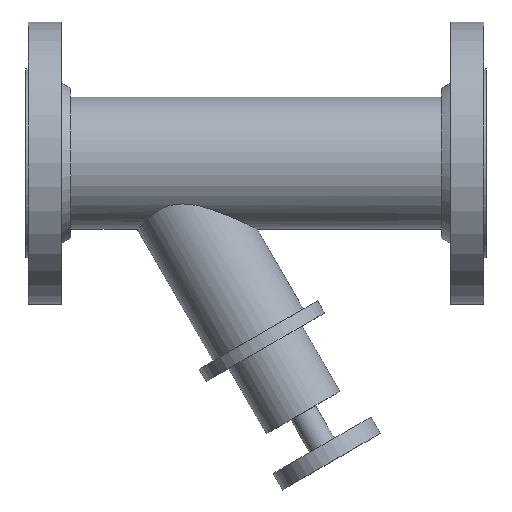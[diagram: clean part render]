
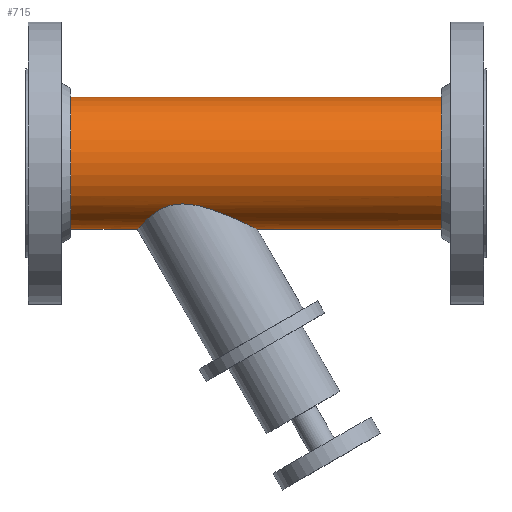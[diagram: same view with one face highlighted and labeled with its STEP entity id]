
A CAD part, top view. The second image highlights one B-rep face of the part: STEP entity #715.
In plain terms, the highlighted cylindrical face has radius 44.45 mm (diameter 88.9 mm), a full revolution.
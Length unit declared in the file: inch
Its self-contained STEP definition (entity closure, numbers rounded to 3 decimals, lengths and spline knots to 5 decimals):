
#45=B_SPLINE_CURVE_WITH_KNOTS('',3,(#1248,#1249,#1250,#1251,#1252,#1253,
#1254,#1255,#1256,#1257,#1258,#1259,#1260,#1261,#1262,#1263,#1264,#1265,
#1266,#1267,#1268,#1269,#1270,#1271,#1272,#1273,#1274,#1275,#1276,#1277,
#1278,#1279,#1280,#1281),.UNSPECIFIED.,.F.,.F.,(4,2,2,2,2,2,2,2,2,2,2,2,
2,2,2,2,4),(6.62129,7.3207,8.0201,8.71951,
9.41891,10.44978,11.48065,12.36162,13.24259,
13.90788,14.57318,15.23848,15.90378,16.64386,
17.38394,17.9867,18.58946),.UNSPECIFIED.);
#46=B_SPLINE_CURVE_WITH_KNOTS('',3,(#1284,#1285,#1286,#1287,#1288,#1289,
#1290,#1291,#1292,#1293,#1294,#1295,#1296,#1297,#1298,#1299,#1300,#1301),
 .UNSPECIFIED.,.F.,.F.,(4,2,2,2,2,2,2,2,4),(18.58946,19.19222,
19.79498,20.53506,21.27514,21.94043,22.60573,
23.27103,23.93632),.UNSPECIFIED.);
#47=B_SPLINE_CURVE_WITH_KNOTS('',3,(#1302,#1303,#1304,#1305,#1306,#1307,
#1308,#1309,#1310,#1311,#1312,#1313,#1314,#1315,#1316,#1317,#1318,#1319),
 .UNSPECIFIED.,.F.,.F.,(4,2,2,2,2,2,2,2,4),(0.,0.88097,1.76194,
2.79281,3.82368,4.52308,5.22249,5.92189,
6.62129),.UNSPECIFIED.);
#65=LINE('',#1246,#87);
#66=LINE('',#1282,#88);
#87=VECTOR('',#1018,1.75);
#88=VECTOR('',#1019,1.75);
#107=CYLINDRICAL_SURFACE('',#817,1.75);
#162=FACE_OUTER_BOUND('',#218,.T.);
#218=EDGE_LOOP('',(#577,#578,#579,#580,#581,#582,#583,#584,#585,#586,#587));
#239=CIRCLE('',#751,1.75);
#240=CIRCLE('',#752,1.75);
#273=CIRCLE('',#800,1.75);
#274=CIRCLE('',#801,1.75);
#305=VERTEX_POINT('',#1117);
#306=VERTEX_POINT('',#1118);
#339=VERTEX_POINT('',#1212);
#340=VERTEX_POINT('',#1213);
#351=VERTEX_POINT('',#1245);
#352=VERTEX_POINT('',#1247);
#353=VERTEX_POINT('',#1283);
#374=EDGE_CURVE('',#305,#306,#239,.T.);
#375=EDGE_CURVE('',#306,#305,#240,.T.);
#420=EDGE_CURVE('',#339,#340,#273,.T.);
#421=EDGE_CURVE('',#340,#339,#274,.T.);
#435=EDGE_CURVE('',#340,#351,#65,.T.);
#436=EDGE_CURVE('',#351,#352,#45,.T.);
#437=EDGE_CURVE('',#352,#306,#66,.T.);
#438=EDGE_CURVE('',#352,#353,#46,.T.);
#439=EDGE_CURVE('',#353,#351,#47,.T.);
#577=ORIENTED_EDGE('',*,*,#420,.T.);
#578=ORIENTED_EDGE('',*,*,#435,.T.);
#579=ORIENTED_EDGE('',*,*,#436,.T.);
#580=ORIENTED_EDGE('',*,*,#437,.T.);
#581=ORIENTED_EDGE('',*,*,#375,.T.);
#582=ORIENTED_EDGE('',*,*,#374,.T.);
#583=ORIENTED_EDGE('',*,*,#437,.F.);
#584=ORIENTED_EDGE('',*,*,#438,.T.);
#585=ORIENTED_EDGE('',*,*,#439,.T.);
#586=ORIENTED_EDGE('',*,*,#435,.F.);
#587=ORIENTED_EDGE('',*,*,#421,.T.);
#715=ADVANCED_FACE('',(#162),#107,.T.);
#751=AXIS2_PLACEMENT_3D('',#1119,#869,#870);
#752=AXIS2_PLACEMENT_3D('',#1120,#871,#872);
#800=AXIS2_PLACEMENT_3D('',#1214,#979,#980);
#801=AXIS2_PLACEMENT_3D('',#1215,#981,#982);
#817=AXIS2_PLACEMENT_3D('',#1244,#1016,#1017);
#869=DIRECTION('center_axis',(1.,0.,0.));
#870=DIRECTION('ref_axis',(0.,1.,0.));
#871=DIRECTION('center_axis',(1.,0.,0.));
#872=DIRECTION('ref_axis',(0.,1.,0.));
#979=DIRECTION('center_axis',(-1.,0.,0.));
#980=DIRECTION('ref_axis',(0.,1.,0.));
#981=DIRECTION('center_axis',(-1.,0.,0.));
#982=DIRECTION('ref_axis',(0.,1.,0.));
#1016=DIRECTION('center_axis',(1.,0.,0.));
#1017=DIRECTION('ref_axis',(0.,1.,0.));
#1018=DIRECTION('',(-1.,0.,0.));
#1019=DIRECTION('',(-1.,0.,0.));
#1117=CARTESIAN_POINT('',(-4.91,1.75,0.));
#1118=CARTESIAN_POINT('',(-4.91,-1.75,0.));
#1119=CARTESIAN_POINT('Origin',(-4.91,0.,0.));
#1120=CARTESIAN_POINT('Origin',(-4.91,0.,0.));
#1212=CARTESIAN_POINT('',(4.91,1.75,0.));
#1213=CARTESIAN_POINT('',(4.91,-1.75,0.));
#1214=CARTESIAN_POINT('Origin',(4.91,0.,0.));
#1215=CARTESIAN_POINT('Origin',(4.91,0.,0.));
#1244=CARTESIAN_POINT('Origin',(0.,0.,0.));
#1245=CARTESIAN_POINT('',(0.03124,-1.75,0.));
#1246=CARTESIAN_POINT('',(0.,-1.75,0.));
#1247=CARTESIAN_POINT('',(-3.14419,-1.75,0.));
#1248=CARTESIAN_POINT('Ctrl Pts',(0.03124,-1.75,0.));
#1249=CARTESIAN_POINT('Ctrl Pts',(0.03124,-1.75,-0.09179));
#1250=CARTESIAN_POINT('Ctrl Pts',(0.01631,-1.74269,
-0.18228));
#1251=CARTESIAN_POINT('Ctrl Pts',(-0.03921,-1.71571,
-0.3557));
#1252=CARTESIAN_POINT('Ctrl Pts',(-0.07979,-1.69606,
-0.43864));
#1253=CARTESIAN_POINT('Ctrl Pts',(-0.17951,-1.6484,
-0.59313));
#1254=CARTESIAN_POINT('Ctrl Pts',(-0.23872,-1.62037,
-0.66484));
#1255=CARTESIAN_POINT('Ctrl Pts',(-0.36728,-1.56067,
-0.79494));
#1256=CARTESIAN_POINT('Ctrl Pts',(-0.43663,-1.52902,
-0.85334));
#1257=CARTESIAN_POINT('Ctrl Pts',(-0.60874,-1.45245,-0.98014));
#1258=CARTESIAN_POINT('Ctrl Pts',(-0.7281,-1.40102,-1.05158));
#1259=CARTESIAN_POINT('Ctrl Pts',(-0.97864,-1.30109,
-1.17296));
#1260=CARTESIAN_POINT('Ctrl Pts',(-1.10983,-1.25281,-1.2231));
#1261=CARTESIAN_POINT('Ctrl Pts',(-1.33924,-1.17961,-1.29353));
#1262=CARTESIAN_POINT('Ctrl Pts',(-1.45822,-1.14612,-1.32285));
#1263=CARTESIAN_POINT('Ctrl Pts',(-1.70164,-1.09729,-1.36362));
#1264=CARTESIAN_POINT('Ctrl Pts',(-1.82623,-1.08253,-1.375));
#1265=CARTESIAN_POINT('Ctrl Pts',(-2.02915,-1.08253,-1.375));
#1266=CARTESIAN_POINT('Ctrl Pts',(-2.11848,-1.0908,-1.36865));
#1267=CARTESIAN_POINT('Ctrl Pts',(-2.29122,-1.12728,-1.33877));
#1268=CARTESIAN_POINT('Ctrl Pts',(-2.37461,-1.1555,-1.31514));
#1269=CARTESIAN_POINT('Ctrl Pts',(-2.52827,-1.22541,-1.25026));
#1270=CARTESIAN_POINT('Ctrl Pts',(-2.59908,-1.26703,-1.20886));
#1271=CARTESIAN_POINT('Ctrl Pts',(-2.726,-1.35322,-1.11154));
#1272=CARTESIAN_POINT('Ctrl Pts',(-2.78219,-1.39766,-1.05561));
#1273=CARTESIAN_POINT('Ctrl Pts',(-2.88473,-1.4849,-0.92956));
#1274=CARTESIAN_POINT('Ctrl Pts',(-2.93595,-1.53296,-0.84963));
#1275=CARTESIAN_POINT('Ctrl Pts',(-3.02122,-1.6172,-0.67565));
#1276=CARTESIAN_POINT('Ctrl Pts',(-3.05538,-1.65321,-0.58156));
#1277=CARTESIAN_POINT('Ctrl Pts',(-3.10003,-1.70108,-0.41795));
#1278=CARTESIAN_POINT('Ctrl Pts',(-3.11702,-1.71978,-0.33493));
#1279=CARTESIAN_POINT('Ctrl Pts',(-3.1391,-1.74426,-0.16551));
#1280=CARTESIAN_POINT('Ctrl Pts',(-3.14419,-1.75,-0.0791));
#1281=CARTESIAN_POINT('Ctrl Pts',(-3.14419,-1.75,0.));
#1282=CARTESIAN_POINT('',(0.,-1.75,0.));
#1283=CARTESIAN_POINT('',(-1.94184,-1.08253,1.375));
#1284=CARTESIAN_POINT('Ctrl Pts',(-3.14419,-1.75,0.));
#1285=CARTESIAN_POINT('Ctrl Pts',(-3.14419,-1.75,0.0791));
#1286=CARTESIAN_POINT('Ctrl Pts',(-3.1391,-1.74426,0.16551));
#1287=CARTESIAN_POINT('Ctrl Pts',(-3.11702,-1.71978,0.33493));
#1288=CARTESIAN_POINT('Ctrl Pts',(-3.10003,-1.70108,0.41795));
#1289=CARTESIAN_POINT('Ctrl Pts',(-3.05538,-1.65321,0.58156));
#1290=CARTESIAN_POINT('Ctrl Pts',(-3.02122,-1.6172,0.67565));
#1291=CARTESIAN_POINT('Ctrl Pts',(-2.93595,-1.53296,0.84963));
#1292=CARTESIAN_POINT('Ctrl Pts',(-2.88473,-1.4849,0.92956));
#1293=CARTESIAN_POINT('Ctrl Pts',(-2.78219,-1.39766,1.05561));
#1294=CARTESIAN_POINT('Ctrl Pts',(-2.726,-1.35322,1.11154));
#1295=CARTESIAN_POINT('Ctrl Pts',(-2.59908,-1.26703,1.20886));
#1296=CARTESIAN_POINT('Ctrl Pts',(-2.52827,-1.22541,1.25026));
#1297=CARTESIAN_POINT('Ctrl Pts',(-2.37461,-1.1555,1.31514));
#1298=CARTESIAN_POINT('Ctrl Pts',(-2.29122,-1.12728,1.33877));
#1299=CARTESIAN_POINT('Ctrl Pts',(-2.11848,-1.0908,1.36865));
#1300=CARTESIAN_POINT('Ctrl Pts',(-2.02915,-1.08253,1.375));
#1301=CARTESIAN_POINT('Ctrl Pts',(-1.94184,-1.08253,1.375));
#1302=CARTESIAN_POINT('Ctrl Pts',(-1.94184,-1.08253,1.375));
#1303=CARTESIAN_POINT('Ctrl Pts',(-1.82623,-1.08253,1.375));
#1304=CARTESIAN_POINT('Ctrl Pts',(-1.70164,-1.09729,1.36362));
#1305=CARTESIAN_POINT('Ctrl Pts',(-1.45822,-1.14612,1.32285));
#1306=CARTESIAN_POINT('Ctrl Pts',(-1.33924,-1.17961,1.29353));
#1307=CARTESIAN_POINT('Ctrl Pts',(-1.10983,-1.25281,1.2231));
#1308=CARTESIAN_POINT('Ctrl Pts',(-0.97864,-1.30109,
1.17296));
#1309=CARTESIAN_POINT('Ctrl Pts',(-0.7281,-1.40102,1.05158));
#1310=CARTESIAN_POINT('Ctrl Pts',(-0.60874,-1.45245,0.98014));
#1311=CARTESIAN_POINT('Ctrl Pts',(-0.43663,-1.52902,
0.85334));
#1312=CARTESIAN_POINT('Ctrl Pts',(-0.36728,-1.56067,
0.79494));
#1313=CARTESIAN_POINT('Ctrl Pts',(-0.23872,-1.62037,
0.66484));
#1314=CARTESIAN_POINT('Ctrl Pts',(-0.17951,-1.6484,
0.59313));
#1315=CARTESIAN_POINT('Ctrl Pts',(-0.07979,-1.69606,
0.43864));
#1316=CARTESIAN_POINT('Ctrl Pts',(-0.03921,-1.71571,
0.3557));
#1317=CARTESIAN_POINT('Ctrl Pts',(0.01631,-1.74269,0.18228));
#1318=CARTESIAN_POINT('Ctrl Pts',(0.03124,-1.75,0.09179));
#1319=CARTESIAN_POINT('Ctrl Pts',(0.03124,-1.75,0.));
